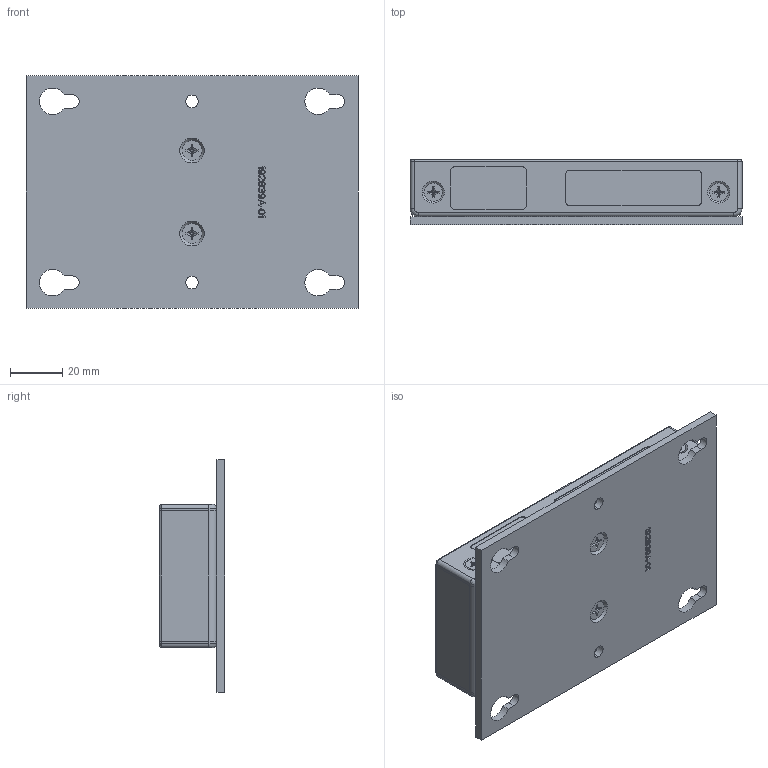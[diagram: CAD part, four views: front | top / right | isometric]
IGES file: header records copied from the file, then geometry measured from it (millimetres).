
Start section:  PTC IGES file: cu_cfp_panel_mount_cont.igs
Global section: file name: cu_cfp_panel_mount_cont.igs; native system: Pro/ENGINEER by Parametric Technology Corporation; preprocessor: 2006300; author: chrisj; organization: Unknown; date: 20070716.144141; units: inch
Bounding box: 127 x 25.08 x 88.9 mm (x, y, z)
Surface area: 44073.7 mm2 (no closed solid volume)
Topology: 0 solids, 0 shells, 1422 faces, 7820 edges, 7700 vertices
Faces by surface type: bspline 1288, revolution 134
